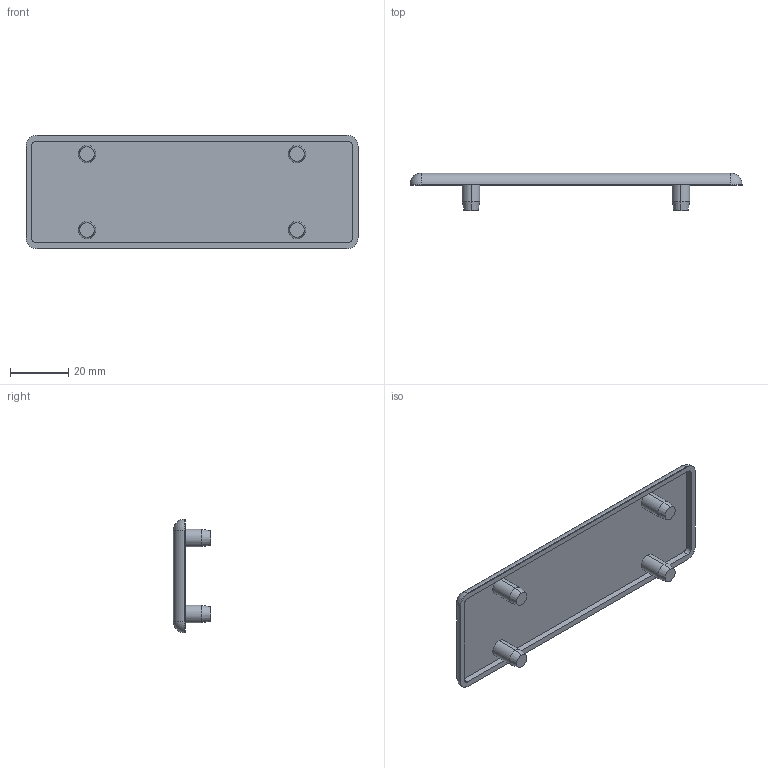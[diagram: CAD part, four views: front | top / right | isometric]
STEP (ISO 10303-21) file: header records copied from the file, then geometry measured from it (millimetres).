
FILE_DESCRIPTION (( 'STEP AP203' ), '1' );
FILE_NAME ('35129210_Abdeckkappe Winkel 8 40x80, schwarz.step', '2022-10-10T08:51:45', ( '' ), ( '' ), 'SwSTEP 2.0', 'SolidWorks 2021', '' );
FILE_SCHEMA (( 'CONFIG_CONTROL_DESIGN' ));
Length unit declared in the file: millimetre
Products named in the file (1): 35129210_Abdeckkappe Winkel 8 40x80, schwarz
Bounding box: 114 x 12.8 x 39 mm (x, y, z)
Volume: 9544.9 mm3; surface area: 10978.8 mm2
Topology: 1 solids, 1 shells, 47 faces, 104 edges, 60 vertices
Faces by surface type: cylinder 20, plane 15, cone 8, sphere 4
Entity records: 1339 total; most frequent: DIRECTION 244, CARTESIAN_POINT 208, ORIENTED_EDGE 200, EDGE_CURVE 100, AXIS2_PLACEMENT_3D 96, VERTEX_POINT 60, VECTOR 52, EDGE_LOOP 52
